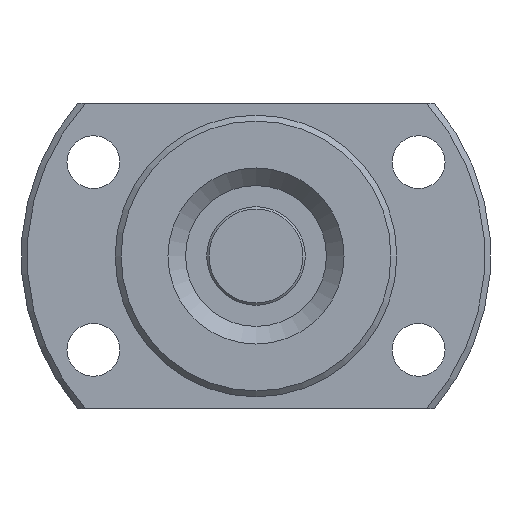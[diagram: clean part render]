
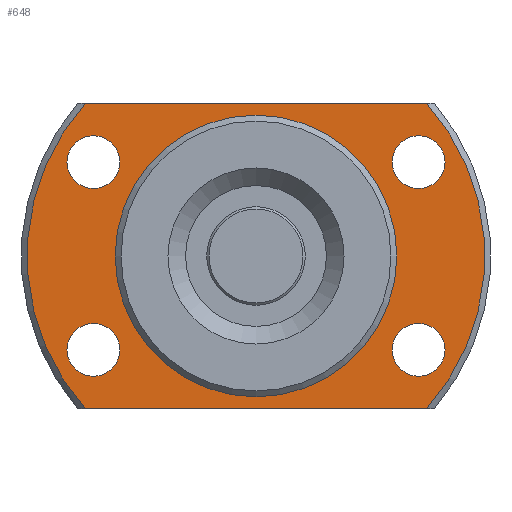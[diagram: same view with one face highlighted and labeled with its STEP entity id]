
A CAD part, left-side view. The second image highlights one B-rep face of the part: STEP entity #648.
In plain terms, the highlighted planar face has unit normal (-1, 0, 0) as drawn and (1, 0, 0) by its records, which use the part's own axes.
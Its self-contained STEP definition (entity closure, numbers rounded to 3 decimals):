
#94=CIRCLE('',#752,2.25);
#95=CIRCLE('',#753,2.25);
#96=CIRCLE('',#754,2.25);
#97=CIRCLE('',#755,2.25);
#98=CIRCLE('',#756,11.85);
#99=CIRCLE('',#757,19.5);
#100=CIRCLE('',#758,19.5);
#186=ORIENTED_EDGE('',*,*,#302,.T.);
#187=ORIENTED_EDGE('',*,*,#303,.T.);
#188=ORIENTED_EDGE('',*,*,#304,.T.);
#189=ORIENTED_EDGE('',*,*,#305,.T.);
#190=ORIENTED_EDGE('',*,*,#306,.F.);
#191=ORIENTED_EDGE('',*,*,#307,.T.);
#192=ORIENTED_EDGE('',*,*,#308,.T.);
#193=ORIENTED_EDGE('',*,*,#309,.T.);
#194=ORIENTED_EDGE('',*,*,#310,.T.);
#302=EDGE_CURVE('',#370,#370,#94,.F.);
#303=EDGE_CURVE('',#371,#371,#95,.F.);
#304=EDGE_CURVE('',#372,#372,#96,.F.);
#305=EDGE_CURVE('',#373,#373,#97,.F.);
#306=EDGE_CURVE('',#374,#374,#98,.T.);
#307=EDGE_CURVE('',#375,#376,#99,.T.);
#308=EDGE_CURVE('',#376,#377,#407,.T.);
#309=EDGE_CURVE('',#377,#378,#100,.T.);
#310=EDGE_CURVE('',#378,#375,#408,.T.);
#370=VERTEX_POINT('',#1112);
#371=VERTEX_POINT('',#1114);
#372=VERTEX_POINT('',#1116);
#373=VERTEX_POINT('',#1118);
#374=VERTEX_POINT('',#1120);
#375=VERTEX_POINT('',#1122);
#376=VERTEX_POINT('',#1123);
#377=VERTEX_POINT('',#1125);
#378=VERTEX_POINT('',#1127);
#407=LINE('',#1124,#425);
#408=LINE('',#1128,#426);
#425=VECTOR('',#931,1000.);
#426=VECTOR('',#934,1000.);
#477=EDGE_LOOP('',(#186));
#478=EDGE_LOOP('',(#187));
#479=EDGE_LOOP('',(#188));
#480=EDGE_LOOP('',(#189));
#481=EDGE_LOOP('',(#190));
#482=EDGE_LOOP('',(#191,#192,#193,#194));
#563=FACE_BOUND('',#477,.T.);
#564=FACE_BOUND('',#478,.T.);
#565=FACE_BOUND('',#479,.T.);
#566=FACE_BOUND('',#480,.T.);
#567=FACE_BOUND('',#481,.T.);
#568=FACE_BOUND('',#482,.T.);
#617=PLANE('',#751);
#648=ADVANCED_FACE('',(#563,#564,#565,#566,#567,#568),#617,.T.);
#751=AXIS2_PLACEMENT_3D('',#1110,#917,#918);
#752=AXIS2_PLACEMENT_3D('',#1111,#919,#920);
#753=AXIS2_PLACEMENT_3D('',#1113,#921,#922);
#754=AXIS2_PLACEMENT_3D('',#1115,#923,#924);
#755=AXIS2_PLACEMENT_3D('',#1117,#925,#926);
#756=AXIS2_PLACEMENT_3D('',#1119,#927,#928);
#757=AXIS2_PLACEMENT_3D('',#1121,#929,#930);
#758=AXIS2_PLACEMENT_3D('',#1126,#932,#933);
#917=DIRECTION('',(1.,0.,0.));
#918=DIRECTION('',(0.,0.,-1.));
#919=DIRECTION('',(1.,0.,0.));
#920=DIRECTION('',(0.,0.,-1.));
#921=DIRECTION('',(1.,0.,0.));
#922=DIRECTION('',(0.,0.,-1.));
#923=DIRECTION('',(1.,0.,0.));
#924=DIRECTION('',(0.,0.,-1.));
#925=DIRECTION('',(1.,0.,0.));
#926=DIRECTION('',(0.,0.,-1.));
#927=DIRECTION('',(1.,0.,0.));
#928=DIRECTION('',(0.,0.,-1.));
#929=DIRECTION('',(1.,0.,0.));
#930=DIRECTION('',(0.,0.,-1.));
#931=DIRECTION('',(0.,-1.,0.));
#932=DIRECTION('',(1.,0.,0.));
#933=DIRECTION('',(0.,0.,-1.));
#934=DIRECTION('',(0.,1.,0.));
#1110=CARTESIAN_POINT('',(8.,11.85,0.));
#1111=CARTESIAN_POINT('',(8.,13.856,8.));
#1112=CARTESIAN_POINT('',(8.,13.856,5.75));
#1113=CARTESIAN_POINT('',(8.,-13.856,-8.));
#1114=CARTESIAN_POINT('',(8.,-13.856,-10.25));
#1115=CARTESIAN_POINT('',(8.,-13.856,8.));
#1116=CARTESIAN_POINT('',(8.,-13.856,5.75));
#1117=CARTESIAN_POINT('',(8.,13.856,-8.));
#1118=CARTESIAN_POINT('',(8.,13.856,-10.25));
#1119=CARTESIAN_POINT('',(8.,0.,0.));
#1120=CARTESIAN_POINT('',(8.,0.,-11.85));
#1121=CARTESIAN_POINT('',(8.,0.,0.));
#1122=CARTESIAN_POINT('',(8.,14.534,-13.));
#1123=CARTESIAN_POINT('',(8.,14.534,13.));
#1124=CARTESIAN_POINT('',(8.,11.85,13.));
#1125=CARTESIAN_POINT('',(8.,-14.534,13.));
#1126=CARTESIAN_POINT('',(8.,0.,0.));
#1127=CARTESIAN_POINT('',(8.,-14.534,-13.));
#1128=CARTESIAN_POINT('',(8.,11.85,-13.));
